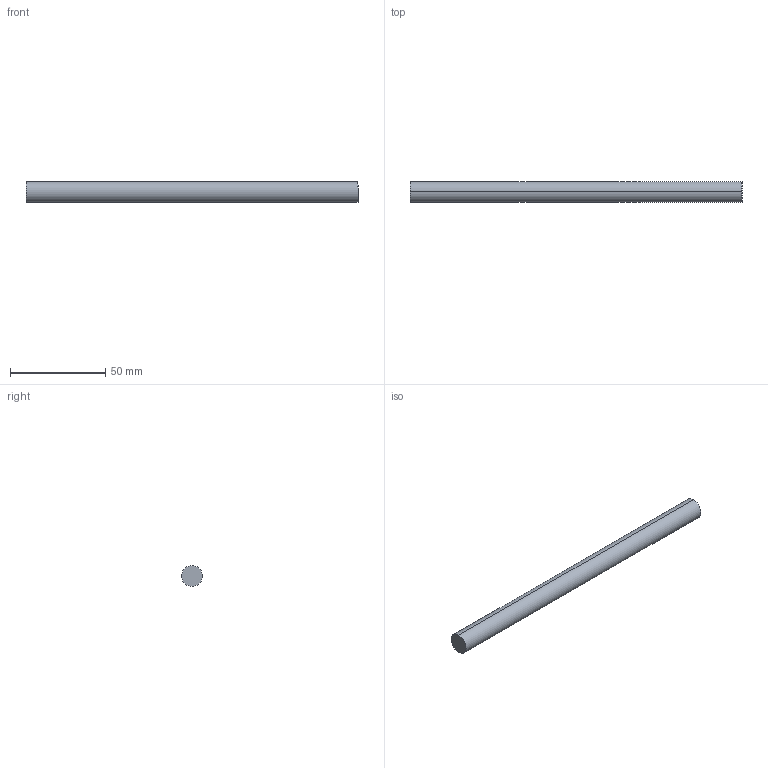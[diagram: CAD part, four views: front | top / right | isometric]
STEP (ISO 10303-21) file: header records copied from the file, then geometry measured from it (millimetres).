
FILE_DESCRIPTION (( 'STEP AP214' ), '1' );
FILE_NAME ('Querreling_2S-Rel_7102_25mm-Halter_KAB-300.step', '2010-09-22T15:06:02', ( 'grass' ), ( '' ), 'SwSTEP 2.0', 'SolidWorks 2010', '' );
FILE_SCHEMA (( 'AUTOMOTIVE_DESIGN' ));
Length unit declared in the file: millimetre
Products named in the file (1): Querreling_2S-Rel_7102_25mm-Halter_KAB-300
Bounding box: 174 x 11 x 11 mm (x, y, z)
Volume: 16535.8 mm3; surface area: 6203.1 mm2
Topology: 1 solids, 1 shells, 4 faces, 6 edges, 4 vertices
Faces by surface type: cylinder 2, plane 2
Entity records: 128 total; most frequent: DIRECTION 20, CARTESIAN_POINT 15, ORIENTED_EDGE 12, AXIS2_PLACEMENT_3D 9, EDGE_CURVE 6, EDGE_LOOP 4, FACE_OUTER_BOUND 4, CIRCLE 4
